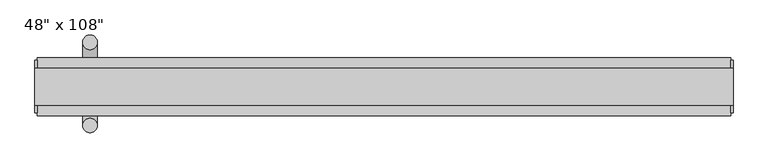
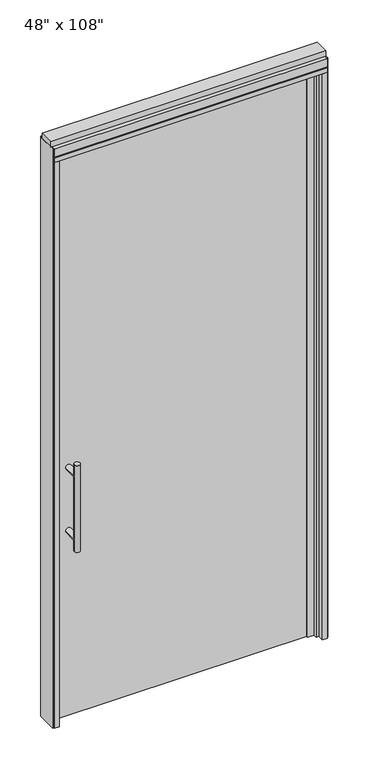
"""IFC4 building model written with IfcOpenShell, lengths in millimetres: furniture geometry."""

from ifc_helpers import new_model, si_unit, point, frame, frame_2d, origin, origin_with_axes, place, context, project, spatial, polyline, circle_curve, ellipse_curve, trimmed, segment, composite_curve, outline, extrude, source, transform, mapped, element, save
from ifc_brep_helpers import plane_surface, cylinder_surface, advanced_brep


def furniture_6eaf9f50(model_context):
    return source(origin(), model_context, "Body", "SolidModel", [
        extrude(outline(polyline([(523.4014771, 14.6777216), (523.4014771, 4.5177216), (-643.4745229, 4.5177216), (-643.4745229, 14.6777216), (523.4014771, 14.6777216)])), origin_with_axes(), (0.0, 0.0, 1.0), 2654.3),
        advanced_brep(
        [(-586.1975229, -63.0462784, 1219.2), (-560.7975229, -63.0462784, 1219.2), (-586.1975229, -63.0462784, 812.8), (-560.7975229, -63.0462784, 812.8), (-586.1975229, -63.0462784, 1164.336), (-586.1975229, -63.0462784, 867.664), (-560.7975229, -63.0462784, 867.664), (-560.7975229, -63.0462784, 1164.336), (-586.1975229, 4.5177216, 1164.336), (-560.7975229, 4.5177216, 1164.336), (-586.1975229, 4.5177216, 867.664), (-560.7975229, 4.5177216, 867.664)],
        [
            (0, 1, circle_curve(frame((-573.4975229, -63.0462784, 1219.2), z_axis=(0.0, 0.0, 1.0), x_axis=(1.0, 0.0, 0.0)), 12.7)),
            (1, 0, circle_curve(frame((-573.4975229, -63.0462784, 1219.2), z_axis=(0.0, 0.0, 1.0), x_axis=(1.0, 0.0, 0.0)), 12.7)),
            (2, 3, circle_curve(frame((-573.4975229, -63.0462784, 812.8), z_axis=(0.0, 0.0, -1.0), x_axis=(1.0, 0.0, 0.0)), 12.7)),
            (3, 2, circle_curve(frame((-573.4975229, -63.0462784, 812.8), z_axis=(0.0, 0.0, -1.0), x_axis=(1.0, 0.0, 0.0)), 12.7)),
            (0, 4),
            (4, 5),
            (5, 2),
            (3, 6),
            (6, 7),
            (7, 1),
            (7, 4, ellipse_curve(frame((-573.4975229, -63.0462784, 1164.336), z_axis=(0.0, -0.707106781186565, 0.70710678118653), x_axis=(0.0, 0.70710678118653, 0.707106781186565)), 17.9605122, 12.7)),
            (5, 6, ellipse_curve(frame((-573.4975229, -63.0462784, 867.664), z_axis=(0.0, -0.70710678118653, -0.7071067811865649), x_axis=(0.0, -0.7071067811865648, 0.7071067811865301)), 17.9605122, 12.7)),
            (4, 7, ellipse_curve(frame((-573.4975229, -63.0462784, 1164.336), z_axis=(0.0, -0.70710678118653, -0.7071067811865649), x_axis=(0.0, -0.7071067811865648, 0.7071067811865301)), 17.9605122, 12.7)),
            (6, 5, ellipse_curve(frame((-573.4975229, -63.0462784, 867.664), z_axis=(0.0, -0.707106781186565, 0.70710678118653), x_axis=(0.0, 0.70710678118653, 0.707106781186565)), 17.9605122, 12.7)),
            (8, 9, circle_curve(frame((-573.4975229, 4.5177216, 1164.336), z_axis=(0.0, 1.0, 0.0), x_axis=(1.0, 0.0, 0.0)), 12.7)),
            (9, 8, circle_curve(frame((-573.4975229, 4.5177216, 1164.336), z_axis=(0.0, 1.0, 0.0), x_axis=(1.0, 0.0, 0.0)), 12.7)),
            (9, 7),
            (4, 8),
            (10, 11, circle_curve(frame((-573.4975229, 4.5177216, 867.664), z_axis=(0.0, 1.0, 0.0), x_axis=(1.0, 0.0, 0.0)), 12.7)),
            (11, 10, circle_curve(frame((-573.4975229, 4.5177216, 867.664), z_axis=(0.0, 1.0, 0.0), x_axis=(1.0, 0.0, 0.0)), 12.7)),
            (11, 6),
            (5, 10),
        ],
        [
            plane_surface(frame((-560.7975229, -63.0462784, 1219.2), z_axis=(0.0, 0.0, 1.0), x_axis=(0.0, 1.0, 0.0))),
            plane_surface(frame((-560.7975229, -63.0462784, 812.8), z_axis=(0.0, 0.0, -1.0), x_axis=(0.0, -1.0, 0.0))),
            cylinder_surface(frame((-573.4975229, -63.0462784, 812.8), z_axis=(0.0, 0.0, 1.0), x_axis=(1.0, 0.0, 0.0)), 12.7),
            plane_surface(frame((-560.7975229, 4.5177216, 1164.336), z_axis=(0.0, 1.0, 0.0), x_axis=(0.0, 0.0, -1.0))),
            cylinder_surface(frame((-573.4975229, 4.5177216, 1164.336), z_axis=(0.0, -1.0, 0.0), x_axis=(1.0, 0.0, 0.0)), 12.7),
            plane_surface(frame((-560.7975229, 4.5177216, 867.664), z_axis=(0.0, 1.0, 0.0), x_axis=(0.0, 0.0, -1.0))),
            cylinder_surface(frame((-573.4975229, 4.5177216, 867.664), z_axis=(0.0, -1.0, 0.0), x_axis=(1.0, 0.0, 0.0)), 12.7),
        ],
        [
            (0, [[1, 2]]),
            (1, [[3, 4]]),
            (2, [[-1, 5, 6, 7, -4, 8, 9, 10]]),
            (2, [[-2, -10, 11, -5]]),
            (2, [[-3, -7, 12, -8]]),
            (2, [[13, -9, 14, -6]]),
            (3, [[15, 16]]),
            (4, [[-16, 17, -13, 18]]),
            (4, [[-15, -18, -11, -17]]),
            (5, [[19, 20]]),
            (6, [[-20, 21, -12, 22]]),
            (6, [[-19, -22, -14, -21]]),
        ],
    ),
        advanced_brep(
        [(-586.1975229, 82.2417216, 1219.2), (-560.7975229, 82.2417216, 1219.2), (-586.1975229, 82.2417216, 812.8), (-560.7975229, 82.2417216, 812.8), (-560.7975229, 82.2417216, 1164.336), (-560.7975229, 82.2417216, 867.664), (-586.1975229, 82.2417216, 867.664), (-586.1975229, 82.2417216, 1164.336), (-586.1975229, 14.6777216, 1164.336), (-560.7975229, 14.6777216, 1164.336), (-586.1975229, 14.6777216, 867.664), (-560.7975229, 14.6777216, 867.664)],
        [
            (0, 1, circle_curve(frame((-573.4975229, 82.2417216, 1219.2), z_axis=(0.0, 0.0, 1.0), x_axis=(1.0, 0.0, 0.0)), 12.7)),
            (1, 0, circle_curve(frame((-573.4975229, 82.2417216, 1219.2), z_axis=(0.0, 0.0, 1.0), x_axis=(1.0, 0.0, 0.0)), 12.7)),
            (2, 3, circle_curve(frame((-573.4975229, 82.2417216, 812.8), z_axis=(0.0, 0.0, -1.0), x_axis=(1.0, 0.0, 0.0)), 12.7)),
            (3, 2, circle_curve(frame((-573.4975229, 82.2417216, 812.8), z_axis=(0.0, 0.0, -1.0), x_axis=(1.0, 0.0, 0.0)), 12.7)),
            (1, 4),
            (4, 5),
            (5, 3),
            (2, 6),
            (6, 7),
            (7, 0),
            (7, 4, ellipse_curve(frame((-573.4975229, 82.2417216, 1164.336), z_axis=(0.0, 0.707106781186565, 0.70710678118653), x_axis=(0.0, -0.70710678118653, 0.707106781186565)), 17.9605122, 12.7)),
            (6, 5, ellipse_curve(frame((-573.4975229, 82.2417216, 867.664), z_axis=(0.0, 0.707106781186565, 0.70710678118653), x_axis=(0.0, -0.70710678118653, 0.707106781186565)), 17.9605122, 12.7)),
            (4, 7, ellipse_curve(frame((-573.4975229, 82.2417216, 1164.336), z_axis=(0.0, 0.70710678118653, -0.7071067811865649), x_axis=(0.0, 0.7071067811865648, 0.7071067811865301)), 17.9605122, 12.7)),
            (5, 6, ellipse_curve(frame((-573.4975229, 82.2417216, 867.664), z_axis=(0.0, 0.70710678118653, -0.7071067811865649), x_axis=(0.0, 0.7071067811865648, 0.7071067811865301)), 17.9605122, 12.7)),
            (8, 9, circle_curve(frame((-573.4975229, 14.6777216, 1164.336), z_axis=(0.0, -1.0, 0.0), x_axis=(1.0, 0.0, 0.0)), 12.7)),
            (9, 8, circle_curve(frame((-573.4975229, 14.6777216, 1164.336), z_axis=(0.0, -1.0, 0.0), x_axis=(1.0, 0.0, 0.0)), 12.7)),
            (8, 7),
            (4, 9),
            (10, 11, circle_curve(frame((-573.4975229, 14.6777216, 867.664), z_axis=(0.0, -1.0, 0.0), x_axis=(1.0, 0.0, 0.0)), 12.7)),
            (11, 10, circle_curve(frame((-573.4975229, 14.6777216, 867.664), z_axis=(0.0, -1.0, 0.0), x_axis=(1.0, 0.0, 0.0)), 12.7)),
            (10, 6),
            (5, 11),
        ],
        [
            plane_surface(frame((-560.7975229, 82.2417216, 1219.2), z_axis=(0.0, 0.0, 1.0), x_axis=(0.0, -1.0, 0.0))),
            plane_surface(frame((-560.7975229, 82.2417216, 812.8), z_axis=(0.0, 0.0, -1.0), x_axis=(0.0, 1.0, 0.0))),
            cylinder_surface(frame((-573.4975229, 82.2417216, 812.8), z_axis=(0.0, 0.0, 1.0), x_axis=(1.0, 0.0, 0.0)), 12.7),
            plane_surface(frame((-560.7975229, 14.6777216, 1164.336), z_axis=(0.0, -1.0, 0.0), x_axis=(0.0, 0.0, -1.0))),
            cylinder_surface(frame((-573.4975229, 14.6777216, 1164.336), z_axis=(0.0, 1.0, 0.0), x_axis=(1.0, 0.0, 0.0)), 12.7),
            plane_surface(frame((-560.7975229, 14.6777216, 867.664), z_axis=(0.0, -1.0, 0.0), x_axis=(0.0, 0.0, -1.0))),
            cylinder_surface(frame((-573.4975229, 14.6777216, 867.664), z_axis=(0.0, 1.0, 0.0), x_axis=(1.0, 0.0, 0.0)), 12.7),
        ],
        [
            (0, [[1, 2]]),
            (1, [[3, 4]]),
            (2, [[5, 6, 7, -3, 8, 9, 10, -2]]),
            (2, [[-10, 11, -5, -1]]),
            (2, [[-9, 12, -6, 13]]),
            (2, [[-7, 14, -8, -4]]),
            (3, [[15, 16]]),
            (4, [[17, -13, 18, -15]]),
            (4, [[-18, -11, -17, -16]]),
            (5, [[19, 20]]),
            (6, [[21, -14, 22, -19]]),
            (6, [[-22, -12, -21, -20]]),
        ],
    ),
        extrude(outline(polyline([(510.0664771, -4.6262784), (481.3644771, -4.6262784), (481.3644771, 4.5177216), (510.0664771, 4.5177216), (510.0664771, -4.6262784)])), origin_with_axes(), (0.0, 0.0, 1.0), 2654.3),
        extrude(outline(composite_curve([segment(polyline([(481.3644771, 14.6777216), (481.3644771, 20.2657216), (497.3794728, 47.99736), (509.6249103, 47.99736)]), True, "CONTINUOUS"), segment(trimmed(circle_curve(frame_2d((506.2835293, 30.8880433)), 17.4325427), [point((509.6249103, 47.99736))], [point((523.4014771, 34.1849216))], False, "CARTESIAN"), True, "CONTINUOUS"), segment(polyline([(523.4014771, 34.1849216), (523.4014771, 14.6777216), (481.3644771, 14.6777216)]), True, "CONTINUOUS")], self_intersect=False)), origin_with_axes(), (0.0, 0.0, 1.0), 2654.3),
        extrude(outline(polyline([(-665.6995229, -46.2822784), (-665.6995229, 55.3177216), (-643.4745229, 55.3177216), (-643.4745229, 4.5177216), (-630.7745229, 4.5177216), (-630.7745229, -20.8822784), (-643.4745229, -20.8822784), (-643.4745229, -46.2822784), (-665.6995229, -46.2822784)])), origin_with_axes(), (0.0, 0.0, 1.0), 2654.3),
        extrude(outline(polyline([(-665.6995229, 55.3177216), (545.6264771, 55.3177216), (545.6264771, -46.2822784), (-665.6995229, -46.2822784), (-665.6995229, 55.3177216)])), frame((0.0, 0.0, 2654.3), z_axis=(0.0, 0.0, 1.0), x_axis=(1.0, 0.0, 0.0)), (0.0, 0.0, 1.0), 22.225),
        extrude(outline(polyline([(549.5634771, 50.3647216), (549.5634771, -41.3292784), (545.6264771, -41.3292784), (545.6264771, 50.3647216), (549.5634771, 50.3647216)])), origin_with_axes(), (0.0, 0.0, 1.0), 2717.8),
        extrude(outline(polyline([(-669.6365229, 50.3647216), (-665.6995229, 50.3647216), (-665.6995229, -41.3292784), (-669.6365229, -41.3292784), (-669.6365229, 50.3647216)])), origin_with_axes(), (0.0, 0.0, 1.0), 2717.8),
        extrude(outline(polyline([(545.6264771, -46.2822784), (523.4014771, -46.2822784), (523.4014771, -20.8822784), (510.7014771, -20.8822784), (510.7014771, 4.5177216), (523.4014771, 4.5177216), (523.4014771, 55.3177216), (545.6264771, 55.3177216), (545.6264771, -46.2822784)])), origin_with_axes(), (0.0, 0.0, 1.0), 2654.3),
        extrude(outline(polyline([(55.3177216, 2681.478), (50.3647216, 2681.478), (50.3647216, 2676.525), (-41.3292784, 2676.525), (-41.3292784, 2681.478), (-46.2822784, 2681.478), (-46.2822784, 2717.8), (55.3177216, 2717.8), (55.3177216, 2681.478)])), frame((-665.6995229, 0.0, 0.0), z_axis=(1.0, 0.0, 0.0), x_axis=(0.0, 1.0, 0.0)), (0.0, 0.0, 1.0), 1211.326),
        extrude(outline(polyline([(-669.6365229, 37.0297216), (549.5634771, 37.0297216), (549.5634771, -27.9942784), (-669.6365229, -27.9942784), (-669.6365229, 37.0297216)])), frame((0.0, 0.0, 2717.8), z_axis=(0.0, 0.0, 1.0), x_axis=(1.0, 0.0, 0.0)), (0.0, 0.0, 1.0), 25.4),
    ])


if __name__ == "__main__":
    model = new_model("IFC4")
    model_context = context("Model", 3, world=origin())
    ifc_project = project(units=[si_unit("LENGTHUNIT", "METRE", prefix="MILLI")], contexts=[model_context])
    site = spatial("IfcSite", under=ifc_project)
    building = spatial("IfcBuilding", under=site)
    placement = place(None, origin())
    furniture_shape = furniture_6eaf9f50(model_context)
    element("IfcFurniture", 1, ObjectType="Haworth_EncloseFrameless_Door_SingleSwing : 48\" x 108\"", at=placement, inside=building, context=model_context, shape_type="MappedRepresentation", body=[
        mapped(furniture_shape, transform((0.0, 0.0, 0.0), x_axis=(1.0, 0.0, 0.0), y_axis=(0.0, 1.0, 0.0), z_axis=(0.0, 0.0, 1.0))),
    ])
    save(model, "model.ifc")
